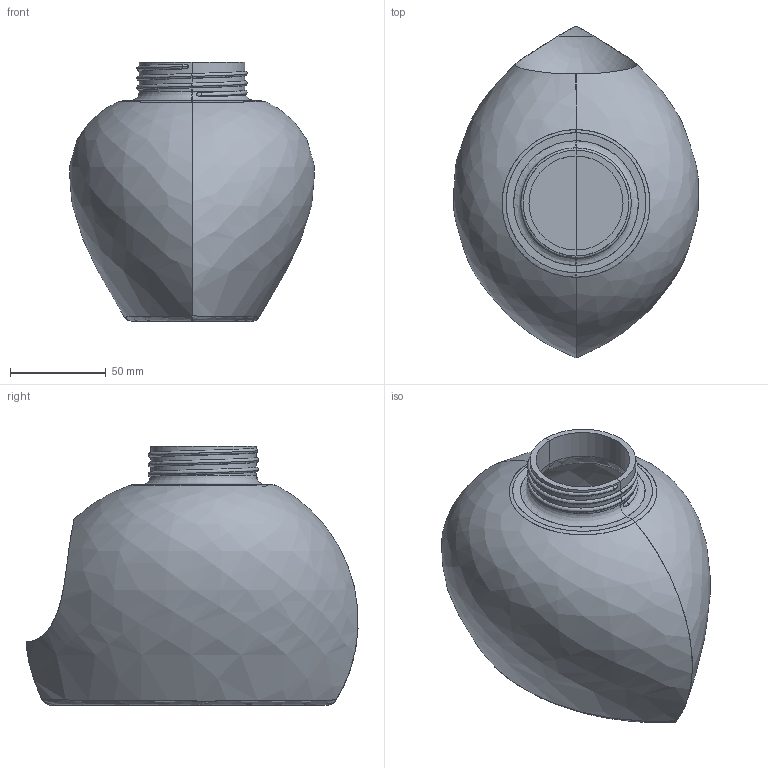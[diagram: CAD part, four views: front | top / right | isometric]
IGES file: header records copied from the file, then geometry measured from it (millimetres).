
Start section: START RECORD GO HERE.
Global section: file name: c1-Murillo_Estrella_Alex-solucion-posible.igs; native system: IBM CATIA IGES - CATIA Version 5 Release 19 ; preprocessor: CATIA Version 5 Release 19 ; author: andres.garcia; organization: IQS; date: 20200131.143932; units: millimetre
Bounding box: 127.65 x 173.03 x 135 mm (x, y, z)
Surface area: 127289.3 mm2 (no closed solid volume)
Topology: 0 solids, 0 shells, 54 faces, 252 edges, 248 vertices
Faces by surface type: bspline 32, revolution 16, plane 6
